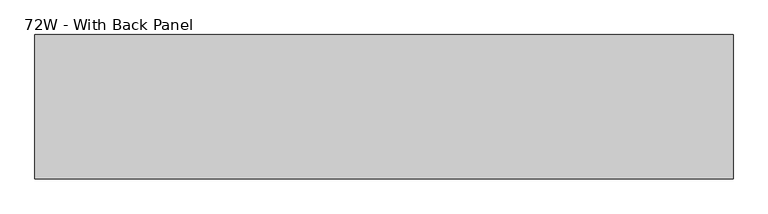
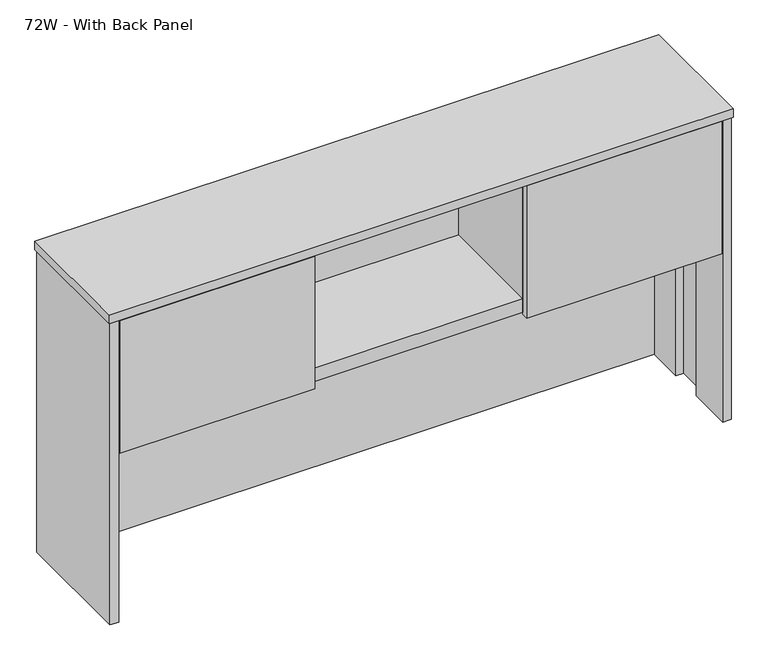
"""IFC4 building model written with IfcOpenShell, lengths in millimetres: furniture geometry, Steelcase - Kick Freestanding - Overhead Storage Cabinet With Hinge Door : 72W - With Back Panel."""

import ifcopenshell
import ifcopenshell.guid

model = None  # the IFC model being written
_history = None  # IfcOwnerHistory: only IFC2X3 demands one
_inside = {}  # id of a spatial element -> (the spatial element, [elements in it])
_under = {}  # id of a project, library or spatial element -> (it, [spatial elements below it])
_declared = {}  # id of a project -> (the project, [libraries it declares])
_typed = {}  # id of a type object -> (the type object, [elements of that type])
_made_of = {}  # id of a material, layer set ... -> (it, [elements and type objects made of it])


def new_model(schema):
    """Start an empty IFC model of exactly this schema.

    Asked for "IFC4X3", IfcOpenShell would pick the latest addendum, in which some entities
    have other attributes; the version numbers below select the first issue.
    IFC2X3 requires an IfcOwnerHistory on every rooted entity: one is made here for all.
    """
    global model, _history
    if schema == "IFC4X3":
        model = ifcopenshell.file(schema_version=(4, 3, 0, 0))
    else:
        model = ifcopenshell.file(schema=schema)
    _inside.clear()
    _under.clear()
    _declared.clear()
    _typed.clear()
    _made_of.clear()
    _history = None
    if model.schema == "IFC2X3":
        org = make("IfcOrganization", Name="unknown")
        user = make(
            "IfcPersonAndOrganization",
            ThePerson=make("IfcPerson", FamilyName="unknown"),
            TheOrganization=org,
        )
        app = make(
            "IfcApplication",
            ApplicationDeveloper=org,
            Version="unknown",
            ApplicationFullName="unknown",
            ApplicationIdentifier="unknown",
        )
        _history = make(
            "IfcOwnerHistory",
            OwningUser=user,
            OwningApplication=app,
            ChangeAction="ADDED",
            CreationDate=0,
        )
    return model


def make(cls, **values):
    """One entity of the class cls with the attributes given. An attribute that is None is left unset."""
    return model.create_entity(
        cls, **{name: value for name, value in values.items() if value is not None}
    )


def rooted(cls, **values):
    """An entity with a GlobalId (a new one), such as an element, a storey or a relation."""
    return make(cls, GlobalId=ifcopenshell.guid.new(), OwnerHistory=_history, **values)


def si_unit(unit_type, name, prefix=None):
    """IfcSIUnit, for example si_unit("LENGTHUNIT", "METRE", prefix="MILLI")."""
    return make("IfcSIUnit", UnitType=unit_type, Prefix=prefix, Name=name)


def assignment(units):
    """IfcUnitAssignment: the units of a project."""
    return None if units is None else make("IfcUnitAssignment", Units=units)


def point(xyz):
    """IfcCartesianPoint."""
    return None if xyz is None else make("IfcCartesianPoint", Coordinates=xyz)


def direction(xyz):
    """IfcDirection."""
    return None if xyz is None else make("IfcDirection", DirectionRatios=xyz)


def frame(location, z_axis=None, x_axis=None):
    """IfcAxis2Placement3D, a coordinate frame: its origin and axes. An axis left out is left unset."""
    return make(
        "IfcAxis2Placement3D",
        Location=point(location),
        Axis=direction(z_axis),
        RefDirection=direction(x_axis),
    )


def origin():
    """The frame at (0, 0, 0) with its axes left unset."""
    return frame((0.0, 0.0, 0.0))


def place(relative_to, where):
    """IfcLocalPlacement: puts the frame where relative to a parent placement (None: the world)."""
    return make(
        "IfcLocalPlacement", PlacementRelTo=relative_to, RelativePlacement=where
    )


def context(
    kind, dimensions, precision=None, world=None, true_north=None, identifier=None
):
    """IfcGeometricRepresentationContext, for example the 3D "Model" context."""
    return make(
        "IfcGeometricRepresentationContext",
        ContextIdentifier=identifier,
        ContextType=kind,
        CoordinateSpaceDimension=dimensions,
        Precision=precision,
        WorldCoordinateSystem=world,
        TrueNorth=true_north,
    )


def project(units=None, contexts=None):
    """IfcProject with its units and contexts."""
    return rooted(
        "IfcProject",
        Name="project",
        RepresentationContexts=contexts,
        UnitsInContext=assignment(units),
    )


def spatial(cls, under=None, at=None, **own):
    """A site, building, storey or space (cls), placed at a placement, below another one or the project."""
    s = rooted(cls, ObjectPlacement=at, **own)
    if under is not None:
        _under.setdefault(under.id(), (under, []))[1].append(s)
    return s


def polyline(points):
    """IfcPolyline through the points."""
    return make("IfcPolyline", Points=[point(p) for p in points])


def outline(outer, holes=None, kind="AREA"):
    """IfcArbitraryClosedProfileDef: a profile drawn as a closed curve; with holes, ...WithVoids."""
    if holes is None:
        return make("IfcArbitraryClosedProfileDef", ProfileType=kind, OuterCurve=outer)
    return make(
        "IfcArbitraryProfileDefWithVoids",
        ProfileType=kind,
        OuterCurve=outer,
        InnerCurves=holes,
    )


def extrude(swept, where, along, depth):
    """IfcExtrudedAreaSolid: the profile swept, set in the frame where, extruded along a direction by depth."""
    return make(
        "IfcExtrudedAreaSolid",
        SweptArea=swept,
        Position=where,
        ExtrudedDirection=direction(along),
        Depth=depth,
    )


def shape(context_of_items, identifier, shape_type, items):
    """IfcShapeRepresentation: the items that make up one representation, for example the "Body"."""
    return make(
        "IfcShapeRepresentation",
        ContextOfItems=context_of_items,
        RepresentationIdentifier=identifier,
        RepresentationType=shape_type,
        Items=items,
    )


def source(mapping_origin, context_of_items, identifier, shape_type, items):
    """IfcRepresentationMap: a shape defined once, which mapped items show again and again."""
    return make(
        "IfcRepresentationMap",
        MappingOrigin=mapping_origin,
        MappedRepresentation=shape(context_of_items, identifier, shape_type, items),
    )


def transform(
    local_origin,
    x_axis=None,
    y_axis=None,
    z_axis=None,
    scale=None,
    scale2=None,
    scale3=None,
    uniform=True,
):
    """IfcCartesianTransformationOperator3D, or its non-uniform kind. x_axis, y_axis, z_axis: its Axis1, 2, 3."""
    if uniform:
        return make(
            "IfcCartesianTransformationOperator3D",
            Axis1=direction(x_axis),
            Axis2=direction(y_axis),
            LocalOrigin=point(local_origin),
            Scale=scale,
            Axis3=direction(z_axis),
        )
    return make(
        "IfcCartesianTransformationOperator3DnonUniform",
        Axis1=direction(x_axis),
        Axis2=direction(y_axis),
        LocalOrigin=point(local_origin),
        Scale=scale,
        Axis3=direction(z_axis),
        Scale2=scale2,
        Scale3=scale3,
    )


def mapped(mapping_source, mapping_target):
    """IfcMappedItem: shows the shape of a source again, moved by a transform."""
    return make(
        "IfcMappedItem", MappingSource=mapping_source, MappingTarget=mapping_target
    )


def made_of(thing, what):
    """Note that an element or type object is made of a material, layer set ...; save() writes the relation."""
    if what is not None:
        _made_of.setdefault(what.id(), (what, []))[1].append(thing)
    return thing


def element(
    cls,
    number,
    at=None,
    inside=None,
    cuts=None,
    type_object=None,
    material=None,
    context=None,
    identifier="Body",
    shape_type=None,
    held_by="IfcProductDefinitionShape",
    body=None,
    shapes=None,
    **own,
):
    """One element of the class cls, such as IfcWall. Its Tag is "e" and its number.

    at: its placement. inside: the storey or other place that contains it. cuts: it is an
    opening in that element (IfcRelVoidsElement). A single representation is given by context,
    identifier, shape_type and body (its items); several are given by shapes. held_by: the class
    of the entity that holds the representations. save() writes the other relations.
    """
    e = rooted(cls, Tag="e%d" % number, ObjectPlacement=at, **own)
    if body is not None:
        shapes = [shape(context, identifier, shape_type, body)]
    if shapes is not None:
        e.Representation = make(held_by, Representations=shapes)
    if inside is not None:
        _inside.setdefault(inside.id(), (inside, []))[1].append(e)
    if cuts is not None:
        rooted(
            "IfcRelVoidsElement", RelatingBuildingElement=cuts, RelatedOpeningElement=e
        )
    if type_object is not None:
        _typed.setdefault(type_object.id(), (type_object, []))[1].append(e)
    return made_of(e, material)


def aggregate(whole, parts):
    """IfcRelAggregates: a whole, such as a stair, and the parts it consists of."""
    return rooted("IfcRelAggregates", RelatingObject=whole, RelatedObjects=parts)


def save(model, path):
    """Write the relations noted so far, then the file.

    IfcRelAggregates (storeys below a building ...), IfcRelContainedInSpatialStructure (elements
    in a storey), IfcRelDefinesByType, IfcRelAssociatesMaterial and IfcRelDeclares: one each for
    every whole, place, type object, material and project.
    """
    for whole, parts in _under.values():
        aggregate(whole, parts)
    for where, things in _inside.values():
        rooted(
            "IfcRelContainedInSpatialStructure",
            RelatedElements=things,
            RelatingStructure=where,
        )
    for kind, things in _typed.values():
        rooted("IfcRelDefinesByType", RelatedObjects=things, RelatingType=kind)
    for what, things in _made_of.values():
        rooted("IfcRelAssociatesMaterial", RelatedObjects=things, RelatingMaterial=what)
    for by, libraries in _declared.values():
        rooted("IfcRelDeclares", RelatingContext=by, RelatedDefinitions=libraries)
    model.write(path)


def furniture_72w_with_back_panel_3cb33bcb(model_context):
    return source(origin(), model_context, "Body", "SweptSolid", [
        extrude(outline(polyline([(606.2138992, -377.8250114), (593.5138992, -377.8250114), (593.5138992, -53.9789719), (606.2138992, -53.9789719), (606.2138992, -377.8250114)])), frame((0.0, 0.0, 1018.943073), z_axis=(0.0, 0.0, 1.0), x_axis=(1.0, 0.0, 0.0)), (0.0, 0.0, 1.0), 403.225),
        extrude(outline(polyline([(1222.1638992, -377.8250114), (1222.1638992, -53.9789719), (1234.8638992, -53.9789719), (1234.8638992, -377.8250114), (1222.1638992, -377.8250114)])), frame((0.0, 0.0, 1018.943073), z_axis=(0.0, 0.0, 1.0), x_axis=(1.0, 0.0, 0.0)), (0.0, 0.0, 1.0), 403.225),
        extrude(outline(polyline([(1790.3618992, -28.5781763), (1815.8872195, -28.5781763), (1815.8872195, -396.8781725), (1790.3618992, -396.8781725), (1790.3618992, -263.5281725), (1812.7122191, -263.5281725), (1812.7122191, -161.9281786), (1790.3618992, -161.9281786), (1790.3618992, -28.5781763)])), frame((0.0, 0.0, 495.068073), z_axis=(0.0, 0.0, 1.0), x_axis=(1.0, 0.0, 0.0)), (0.0, 0.0, 1.0), 927.1),
        extrude(outline(polyline([(1222.1638992, -377.8250114), (1787.3126896, -377.8250114), (1787.3126896, -396.8750114), (1222.1638992, -396.8750114), (1222.1638992, -377.8250114)])), frame((0.0, 0.0, 1012.5930246), z_axis=(0.0, 0.0, 1.0), x_axis=(1.0, 0.0, 0.0)), (0.0, 0.0, 1.0), 406.4000484),
        extrude(outline(polyline([(1222.1639098, -377.8250114), (606.2138992, -377.8250114), (606.2138992, -53.9789719), (1222.1639098, -53.9789719), (1222.1639098, -377.8250114)])), frame((0.0, 0.0, 1018.943073), z_axis=(0.0, 0.0, 1.0), x_axis=(1.0, 0.0, 0.0)), (0.0, 0.0, 1.0), 41.2749516),
        extrude(outline(polyline([(606.2138992, -377.8250114), (606.2138992, -396.8750114), (41.0639007, -396.8750114), (41.0639007, -377.8250114), (606.2138992, -377.8250114)])), frame((0.0, 0.0, 1012.5930246), z_axis=(0.0, 0.0, 1.0), x_axis=(1.0, 0.0, 0.0)), (0.0, 0.0, 1.0), 406.4000484),
        extrude(outline(polyline([(1790.3618992, -53.9789719), (38.0158992, -53.9789719), (38.0158992, -28.5789734), (1790.3618992, -28.5789734), (1790.3618992, -53.9789719)])), frame((0.0, 0.0, 495.068073), z_axis=(0.0, 0.0, 1.0), x_axis=(1.0, 0.0, 0.0)), (0.0, 0.0, 1.0), 927.1),
        extrude(outline(polyline([(38.0158992, -28.5781763), (38.0158992, -161.9281786), (15.6638988, -161.9281786), (15.6638988, -263.5281725), (38.0158992, -263.5281725), (38.0158992, -396.8781725), (12.4888985, -396.8781725), (12.4888985, -28.5781763), (38.0158992, -28.5781763)])), frame((0.0, 0.0, 495.068073), z_axis=(0.0, 0.0, 1.0), x_axis=(1.0, 0.0, 0.0)), (0.0, 0.0, 1.0), 927.1),
        extrude(outline(polyline([(1819.0638992, -25.4), (1819.0638992, -400.05), (9.3138992, -400.05), (9.3138992, -25.4), (1819.0638992, -25.4)])), frame((0.0, 0.0, 1422.168073), z_axis=(0.0, 0.0, 1.0), x_axis=(1.0, 0.0, 0.0)), (0.0, 0.0, 1.0), 25.4),
    ])


if __name__ == "__main__":
    model = new_model("IFC4")
    model_context = context("Model", 3, world=origin())
    ifc_project = project(units=[si_unit("LENGTHUNIT", "METRE", prefix="MILLI")], contexts=[model_context])
    site = spatial("IfcSite", under=ifc_project)
    building = spatial("IfcBuilding", under=site)
    placement = place(None, origin())
    furniture_72w_with_back_panel_shape = furniture_72w_with_back_panel_3cb33bcb(model_context)
    element("IfcFurniture", 1, ObjectType="Steelcase - Kick Freestanding - Overhead Storage Cabinet With Hinge Door : 72W - With Back Panel", at=placement, inside=building, context=model_context, shape_type="MappedRepresentation", body=[
        mapped(furniture_72w_with_back_panel_shape, transform((0.0, 0.0, 0.0), x_axis=(1.0, 0.0, 0.0), y_axis=(0.0, 1.0, 0.0), z_axis=(0.0, 0.0, 1.0))),
    ])
    save(model, "model.ifc")
